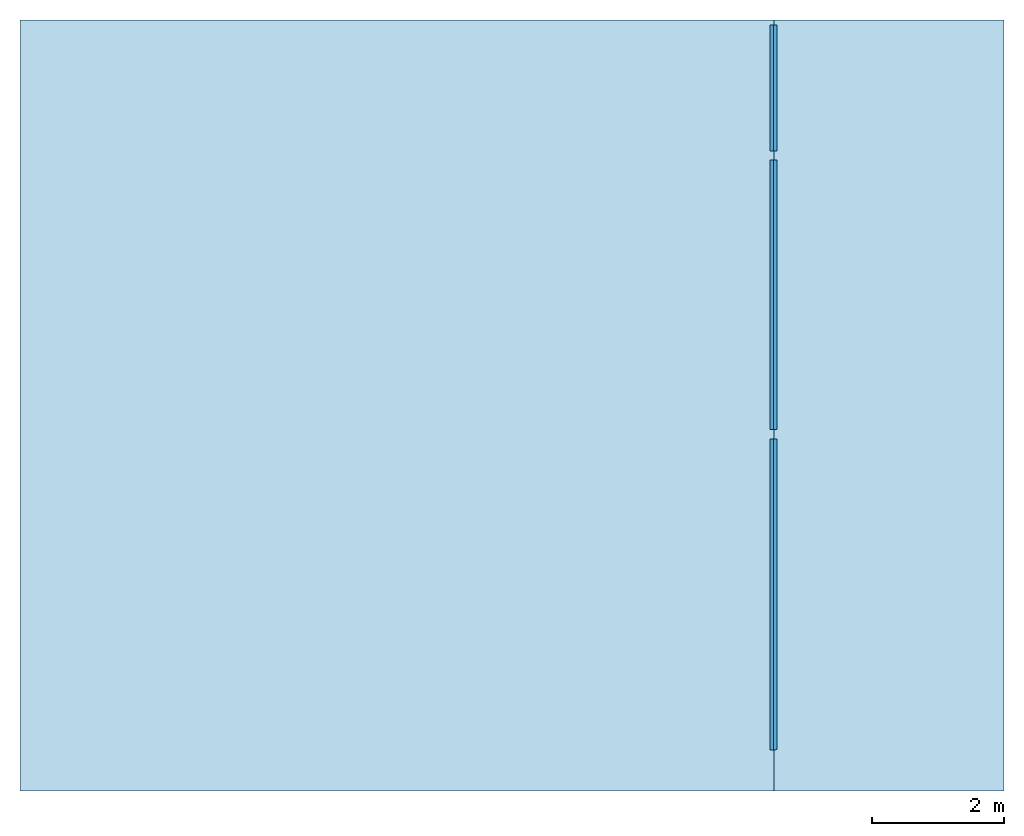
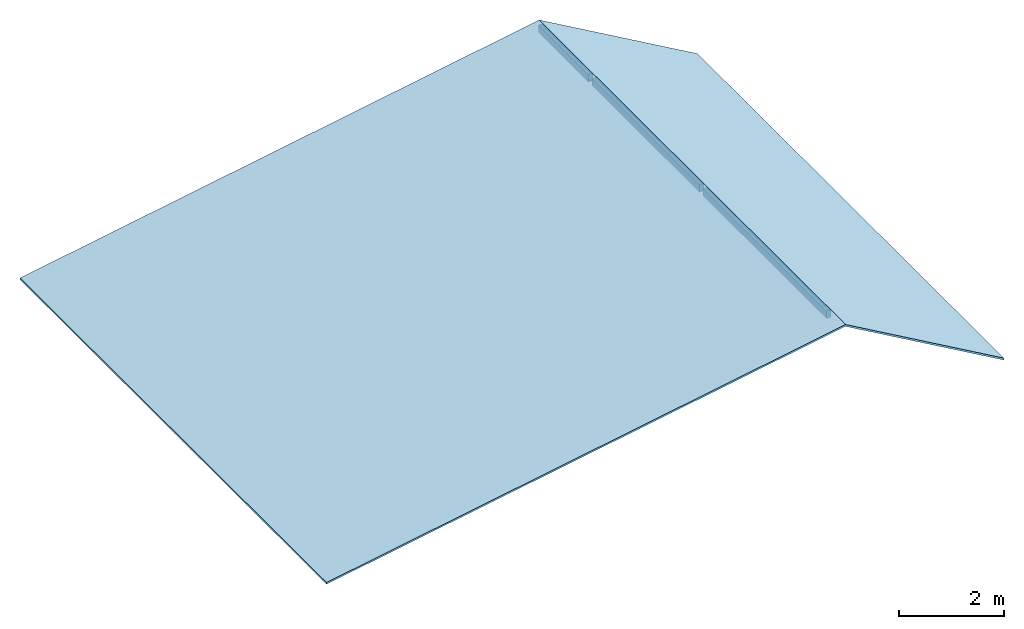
# One storey: 3 beams, 1 roof.
"""IFC4 building model written with IfcOpenShell, lengths in centimetres."""

import ifcopenshell
import ifcopenshell.guid

model = None  # the IFC model being written
_history = None  # IfcOwnerHistory: only IFC2X3 demands one
_inside = {}  # id of a spatial element -> (the spatial element, [elements in it])
_under = {}  # id of a project, library or spatial element -> (it, [spatial elements below it])
_declared = {}  # id of a project -> (the project, [libraries it declares])
_typed = {}  # id of a type object -> (the type object, [elements of that type])
_made_of = {}  # id of a material, layer set ... -> (it, [elements and type objects made of it])


def new_model(schema):
    """Start an empty IFC model of exactly this schema.

    Asked for "IFC4X3", IfcOpenShell would pick the latest addendum, in which some entities
    have other attributes; the version numbers below select the first issue.
    IFC2X3 requires an IfcOwnerHistory on every rooted entity: one is made here for all.
    """
    global model, _history
    if schema == "IFC4X3":
        model = ifcopenshell.file(schema_version=(4, 3, 0, 0))
    else:
        model = ifcopenshell.file(schema=schema)
    _inside.clear()
    _under.clear()
    _declared.clear()
    _typed.clear()
    _made_of.clear()
    _history = None
    if model.schema == "IFC2X3":
        org = make("IfcOrganization", Name="unknown")
        user = make(
            "IfcPersonAndOrganization",
            ThePerson=make("IfcPerson", FamilyName="unknown"),
            TheOrganization=org,
        )
        app = make(
            "IfcApplication",
            ApplicationDeveloper=org,
            Version="unknown",
            ApplicationFullName="unknown",
            ApplicationIdentifier="unknown",
        )
        _history = make(
            "IfcOwnerHistory",
            OwningUser=user,
            OwningApplication=app,
            ChangeAction="ADDED",
            CreationDate=0,
        )
    return model


def make(cls, **values):
    """One entity of the class cls with the attributes given. An attribute that is None is left unset."""
    return model.create_entity(
        cls, **{name: value for name, value in values.items() if value is not None}
    )


def entity(cls, *values):
    """Any entity or typed value of the class cls, its attributes in the order of the schema. None: left unset."""
    e = model.create_entity(cls)
    for i, value in enumerate(values):
        if value is not None:
            e[i] = value
    return e


def rooted(cls, **values):
    """An entity with a GlobalId (a new one), such as an element, a storey or a relation."""
    return make(cls, GlobalId=ifcopenshell.guid.new(), OwnerHistory=_history, **values)


def si_unit(unit_type, name, prefix=None):
    """IfcSIUnit, for example si_unit("LENGTHUNIT", "METRE", prefix="MILLI")."""
    return make("IfcSIUnit", UnitType=unit_type, Prefix=prefix, Name=name)


def converted_unit(unit_type, name, factor, base, dimensions=None, offset=None):
    """IfcConversionBasedUnit, such as the inch: factor (a typed value) times the base unit."""
    return make(
        "IfcConversionBasedUnit"
        if offset is None
        else "IfcConversionBasedUnitWithOffset",
        ConversionOffset=offset,
        Dimensions=None
        if dimensions is None
        else entity("IfcDimensionalExponents", *dimensions),
        UnitType=unit_type,
        Name=name,
        ConversionFactor=make(
            "IfcMeasureWithUnit", ValueComponent=factor, UnitComponent=base
        ),
    )


def derived_unit(unit_type, elements):
    """IfcDerivedUnit: a product of units, each with its exponent."""
    return make(
        "IfcDerivedUnit",
        Elements=[
            make("IfcDerivedUnitElement", Unit=unit, Exponent=power)
            for unit, power in elements
        ],
        UnitType=unit_type,
    )


def assignment(units):
    """IfcUnitAssignment: the units of a project."""
    return None if units is None else make("IfcUnitAssignment", Units=units)


def point(xyz):
    """IfcCartesianPoint."""
    return None if xyz is None else make("IfcCartesianPoint", Coordinates=xyz)


def direction(xyz):
    """IfcDirection."""
    return None if xyz is None else make("IfcDirection", DirectionRatios=xyz)


def frame(location, z_axis=None, x_axis=None):
    """IfcAxis2Placement3D, a coordinate frame: its origin and axes. An axis left out is left unset."""
    return make(
        "IfcAxis2Placement3D",
        Location=point(location),
        Axis=direction(z_axis),
        RefDirection=direction(x_axis),
    )


def origin():
    """The frame at (0, 0, 0) with its axes left unset."""
    return frame((0.0, 0.0, 0.0))


def place(relative_to, where):
    """IfcLocalPlacement: puts the frame where relative to a parent placement (None: the world)."""
    return make(
        "IfcLocalPlacement", PlacementRelTo=relative_to, RelativePlacement=where
    )


def context(
    kind, dimensions, precision=None, world=None, true_north=None, identifier=None
):
    """IfcGeometricRepresentationContext, for example the 3D "Model" context."""
    return make(
        "IfcGeometricRepresentationContext",
        ContextIdentifier=identifier,
        ContextType=kind,
        CoordinateSpaceDimension=dimensions,
        Precision=precision,
        WorldCoordinateSystem=world,
        TrueNorth=true_north,
    )


def subcontext(parent, identifier, kind, view, scale=None):
    """IfcGeometricRepresentationSubContext, for example "Body" below "Model"."""
    return make(
        "IfcGeometricRepresentationSubContext",
        ContextIdentifier=identifier,
        ContextType=kind,
        ParentContext=parent,
        TargetScale=scale,
        TargetView=view,
    )


def project(units=None, contexts=None):
    """IfcProject with its units and contexts."""
    return rooted(
        "IfcProject",
        Name="project",
        RepresentationContexts=contexts,
        UnitsInContext=assignment(units),
    )


def spatial(cls, under=None, at=None, **own):
    """A site, building, storey or space (cls), placed at a placement, below another one or the project."""
    s = rooted(cls, ObjectPlacement=at, **own)
    if under is not None:
        _under.setdefault(under.id(), (under, []))[1].append(s)
    return s


def point_list(points):
    """IfcCartesianPointList2D or 3D."""
    cls = (
        "IfcCartesianPointList2D" if len(points[0]) == 2 else "IfcCartesianPointList3D"
    )
    return make(cls, CoordList=points)


def indexed_curve(points, segments=None, self_intersect=None):
    """IfcIndexedPolyCurve: lines and arcs through numbered points (the first is 1)."""
    return make(
        "IfcIndexedPolyCurve",
        Points=point_list(points),
        Segments=segments,
        SelfIntersect=self_intersect,
    )


def outline(outer, holes=None, kind="AREA"):
    """IfcArbitraryClosedProfileDef: a profile drawn as a closed curve; with holes, ...WithVoids."""
    if holes is None:
        return make("IfcArbitraryClosedProfileDef", ProfileType=kind, OuterCurve=outer)
    return make(
        "IfcArbitraryProfileDefWithVoids",
        ProfileType=kind,
        OuterCurve=outer,
        InnerCurves=holes,
    )


def extrude(swept, where, along, depth):
    """IfcExtrudedAreaSolid: the profile swept, set in the frame where, extruded along a direction by depth."""
    return make(
        "IfcExtrudedAreaSolid",
        SweptArea=swept,
        Position=where,
        ExtrudedDirection=direction(along),
        Depth=depth,
    )


def polygons(points, faces, closed=None, point_numbers=None):
    """IfcPolygonalFaceSet: a face is its outer loop, then its inner loops; points numbered from 1."""
    made = []
    for loops in faces:
        if len(loops) == 1:
            made.append(make("IfcIndexedPolygonalFace", CoordIndex=loops[0]))
        else:
            made.append(
                make(
                    "IfcIndexedPolygonalFaceWithVoids",
                    CoordIndex=loops[0],
                    InnerCoordIndices=loops[1:],
                )
            )
    return make(
        "IfcPolygonalFaceSet",
        Coordinates=point_list(points),
        Closed=closed,
        Faces=made,
        PnIndex=point_numbers,
    )


def shape(context_of_items, identifier, shape_type, items):
    """IfcShapeRepresentation: the items that make up one representation, for example the "Body"."""
    return make(
        "IfcShapeRepresentation",
        ContextOfItems=context_of_items,
        RepresentationIdentifier=identifier,
        RepresentationType=shape_type,
        Items=items,
    )


def source(mapping_origin, context_of_items, identifier, shape_type, items):
    """IfcRepresentationMap: a shape defined once, which mapped items show again and again."""
    return make(
        "IfcRepresentationMap",
        MappingOrigin=mapping_origin,
        MappedRepresentation=shape(context_of_items, identifier, shape_type, items),
    )


def transform(
    local_origin,
    x_axis=None,
    y_axis=None,
    z_axis=None,
    scale=None,
    scale2=None,
    scale3=None,
    uniform=True,
):
    """IfcCartesianTransformationOperator3D, or its non-uniform kind. x_axis, y_axis, z_axis: its Axis1, 2, 3."""
    if uniform:
        return make(
            "IfcCartesianTransformationOperator3D",
            Axis1=direction(x_axis),
            Axis2=direction(y_axis),
            LocalOrigin=point(local_origin),
            Scale=scale,
            Axis3=direction(z_axis),
        )
    return make(
        "IfcCartesianTransformationOperator3DnonUniform",
        Axis1=direction(x_axis),
        Axis2=direction(y_axis),
        LocalOrigin=point(local_origin),
        Scale=scale,
        Axis3=direction(z_axis),
        Scale2=scale2,
        Scale3=scale3,
    )


def mapped(mapping_source, mapping_target):
    """IfcMappedItem: shows the shape of a source again, moved by a transform."""
    return make(
        "IfcMappedItem", MappingSource=mapping_source, MappingTarget=mapping_target
    )


def material(Name=None, Category=None):
    """IfcMaterial."""
    return make("IfcMaterial", Name=Name, Category=Category)


def made_of(thing, what):
    """Note that an element or type object is made of a material, layer set ...; save() writes the relation."""
    if what is not None:
        _made_of.setdefault(what.id(), (what, []))[1].append(thing)
    return thing


def type_object(cls, material=None, **own):
    """A type object (cls), such as IfcWallType, which elements share."""
    return made_of(rooted(cls, **own), material)


def type_shapes(of_type, sources):
    """Give a type object the sources (RepresentationMaps) that its elements show as mapped items."""
    of_type.RepresentationMaps = sources


def element(
    cls,
    number,
    at=None,
    inside=None,
    cuts=None,
    type_object=None,
    material=None,
    context=None,
    identifier="Body",
    shape_type=None,
    held_by="IfcProductDefinitionShape",
    body=None,
    shapes=None,
    **own,
):
    """One element of the class cls, such as IfcWall. Its Tag is "e" and its number.

    at: its placement. inside: the storey or other place that contains it. cuts: it is an
    opening in that element (IfcRelVoidsElement). A single representation is given by context,
    identifier, shape_type and body (its items); several are given by shapes. held_by: the class
    of the entity that holds the representations. save() writes the other relations.
    """
    e = rooted(cls, Tag="e%d" % number, ObjectPlacement=at, **own)
    if body is not None:
        shapes = [shape(context, identifier, shape_type, body)]
    if shapes is not None:
        e.Representation = make(held_by, Representations=shapes)
    if inside is not None:
        _inside.setdefault(inside.id(), (inside, []))[1].append(e)
    if cuts is not None:
        rooted(
            "IfcRelVoidsElement", RelatingBuildingElement=cuts, RelatedOpeningElement=e
        )
    if type_object is not None:
        _typed.setdefault(type_object.id(), (type_object, []))[1].append(e)
    return made_of(e, material)


def aggregate(whole, parts):
    """IfcRelAggregates: a whole, such as a stair, and the parts it consists of."""
    return rooted("IfcRelAggregates", RelatingObject=whole, RelatedObjects=parts)


def save(model, path):
    """Write the relations noted so far, then the file.

    IfcRelAggregates (storeys below a building ...), IfcRelContainedInSpatialStructure (elements
    in a storey), IfcRelDefinesByType, IfcRelAssociatesMaterial and IfcRelDeclares: one each for
    every whole, place, type object, material and project.
    """
    for whole, parts in _under.values():
        aggregate(whole, parts)
    for where, things in _inside.values():
        rooted(
            "IfcRelContainedInSpatialStructure",
            RelatedElements=things,
            RelatingStructure=where,
        )
    for kind, things in _typed.values():
        rooted("IfcRelDefinesByType", RelatedObjects=things, RelatingType=kind)
    for what, things in _made_of.values():
        rooted("IfcRelAssociatesMaterial", RelatedObjects=things, RelatingMaterial=what)
    for by, libraries in _declared.values():
        rooted("IfcRelDeclares", RelatingContext=by, RelatedDefinitions=libraries)
    model.write(path)


model = new_model("IFC4")

# Units and contexts
model_context = context("Model", 3, precision=0.001, world=origin(), true_north=direction((6.123233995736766e-17, 1.0)))
body_context = subcontext(model_context, "Body", "Model", "MODEL_VIEW")
ifc_project = project(units=[si_unit("LENGTHUNIT", "METRE", prefix="CENTI"), si_unit("AREAUNIT", "SQUARE_METRE"), converted_unit("PLANEANGLEUNIT", "DEGREE", entity("IfcPlaneAngleMeasure", 0.017453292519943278), si_unit("PLANEANGLEUNIT", "RADIAN"), dimensions=[0, 0, 0, 0, 0, 0, 0]), si_unit("VOLUMEUNIT", "CUBIC_METRE"), derived_unit("THERMALTRANSMITTANCEUNIT", [(si_unit("MASSUNIT", "GRAM", prefix="KILO"), 1), (si_unit("THERMODYNAMICTEMPERATUREUNIT", "KELVIN"), -1), (si_unit("TIMEUNIT", "SECOND"), -3)])], contexts=[model_context])

# Site, building, storey
site_placement = place(None, frame((-0.003347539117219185, 0.0, 0.0)))
site = spatial("IfcSite", under=ifc_project, at=site_placement, Name="Default", CompositionType="ELEMENT")
building_placement = place(site_placement, origin())
building = spatial("IfcBuilding", under=site, at=building_placement, CompositionType="ELEMENT")
storey_placement = place(building_placement, frame((0.0, 0.0, 556.0)))
storey = spatial("IfcBuildingStorey", under=building, at=storey_placement, Name="+5.25", CompositionType="ELEMENT", Elevation=556.0000000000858)

# Beams
ifc_material_1 = material(Name="BLC - GL24h", Category="Bois")
beam_type_1 = type_object("IfcBeamType", Name="Poutre - Lamellé-collé:10x18", PredefinedType="BEAM", material=ifc_material_1)
shared_shape_1 = source(origin(), body_context, "Body", "SweptSolid", [
    extrude(outline(indexed_curve([(-0.011114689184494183, -6.623454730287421), (0.02335203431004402, -6.623454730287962), (4.996940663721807, -5.751660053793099), (4.996940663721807, 11.376545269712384), (-5.003059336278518, 11.376545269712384), (-5.003059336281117, -3.754521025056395), (-0.011114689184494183, -6.623454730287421)], self_intersect=False)), frame((-5658.3080308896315, -1897.9758848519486, 545.286545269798), z_axis=(0.0, -1.0, 0.0), x_axis=(-1.0, 0.0, 0.0)), (0.0, 0.0, 1.0), 407.90000006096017),
])
type_shapes(beam_type_1, [shared_shape_1])
beam_1_placement = place(storey_placement, frame((0.0, 0.0, -556.0)))
element("IfcBeam", 1, at=beam_1_placement, inside=storey, type_object=beam_type_1, material=ifc_material_1, Name="Poutre - Lamellé-collé:10x18", ObjectType="Poutre - Lamellé-collé:10x18", PredefinedType="BEAM", context=body_context, shape_type="MappedRepresentation", body=[
    mapped(shared_shape_1, transform((0.0, 0.0, 0.0), scale=1.0)),
])
beam_type_2 = type_object("IfcBeamType", Name="Poutre - Lamellé-collé:10x18", PredefinedType="BEAM", material=ifc_material_1)
shared_shape_2 = source(origin(), body_context, "Body", "SweptSolid", [
    extrude(outline(indexed_curve([(-0.011114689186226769, -6.623454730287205), (0.023352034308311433, -6.623454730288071), (4.996940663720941, -5.751660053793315), (4.996940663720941, 11.376545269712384), (-5.003059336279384, 11.376545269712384), (-5.003059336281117, -3.7545210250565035), (-0.011114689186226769, -6.623454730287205)], self_intersect=False)), frame((-5658.3080308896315, -1693.450884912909, 545.286545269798), z_axis=(0.0, -1.0, 0.0), x_axis=(-1.0, 0.0, 0.0)), (0.0, 0.0, 1.0), 190.40000000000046),
])
type_shapes(beam_type_2, [shared_shape_2])
beam_2_placement = place(storey_placement, frame((0.0, 0.0, -556.0)))
element("IfcBeam", 2, at=beam_2_placement, inside=storey, type_object=beam_type_2, material=ifc_material_1, Name="Poutre - Lamellé-collé:10x18", ObjectType="Poutre - Lamellé-collé:10x18", PredefinedType="BEAM", context=body_context, shape_type="MappedRepresentation", body=[
    mapped(shared_shape_2, transform((0.0, 0.0, 0.0), scale=1.0)),
])
beam_type_3 = type_object("IfcBeamType", Name="Poutre - Lamellé-collé:10x18", PredefinedType="BEAM", material=ifc_material_1)
shared_shape_3 = source(origin(), body_context, "Body", "Tessellation", [
    polygons([(5.008055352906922, 0.33959978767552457, 18.00000000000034), (4.973588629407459, 0.33726257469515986, 17.999999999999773), (9.094947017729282e-13, 4.547473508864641e-13, 17.128205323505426), (9.094947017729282e-13, 4.547473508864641e-13, 0.0), (10.000000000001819, 0.6781070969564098, 0.0), (10.00000000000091, 0.6781070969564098, 15.131066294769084), (5.0080553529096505, 470.77997268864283, 17.999999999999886), (4.973588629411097, 470.77997268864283, 18.0), (9.094947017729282e-13, 470.77997268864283, 17.128205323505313), (9.094947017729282e-13, 470.77997268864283, 0.0), (10.000000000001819, 470.77997268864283, 0.0), (10.000000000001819, 470.77997268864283, 15.131066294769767)], [[[1, 2, 3, 4, 5, 6]], [[7, 8, 2, 1]], [[3, 2, 8, 9]], [[9, 10, 4, 3]], [[4, 10, 11, 5]], [[5, 11, 12, 6]], [[12, 11, 10, 9, 8, 7]], [[1, 6, 12, 7]]], closed=True),
])
type_shapes(beam_type_3, [shared_shape_3])
beam_3_placement = place(storey_placement, frame((-5663.304971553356, -2790.696776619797, -22.090000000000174)))
element("IfcBeam", 3, at=beam_3_placement, inside=storey, type_object=beam_type_3, material=ifc_material_1, Name="Poutre - Lamellé-collé:10x18", ObjectType="Poutre - Lamellé-collé:10x18", PredefinedType="BEAM", context=body_context, shape_type="MappedRepresentation", body=[
    mapped(shared_shape_3, transform((0.0, 0.0, 0.0), scale=1.0)),
])

# Roof
ifc_material_2 = material(Name="Panneau métallique", Category="Métal")
roof_type = type_object("IfcRoofType", Name="Toit de base:Bac Acier 3.333.39 T", PredefinedType="NOTDEFINED")
roof_placement = place(storey_placement, frame((-6798.586652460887, -2852.875884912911, -204.4981975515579)))
element("IfcRoof", 4, at=roof_placement, inside=storey, type_object=roof_type, material=ifc_material_2, Name="Toit de base:Bac Acier 3.333.39 T", ObjectType="Toit de base:Bac Acier 3.333.39 T", PredefinedType="NOTDEFINED", context=body_context, shape_type="Tessellation", body=[
    polygons([(1489.000000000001, 0.0, 4.498197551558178), (1141.000000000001, 1.3642420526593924e-12, 204.4981975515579), (0.0, 5.002220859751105e-12, 4.498197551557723), (0.0, 5.002220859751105e-12, 0.5387375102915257), (1140.2816809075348, 1.3642420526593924e-12, 200.41282706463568), (1489.000000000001, 0.0, 0.0), (1489.0000000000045, 1166.999999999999, 4.498197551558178), (1489.0000000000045, 1166.999999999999, 0.0), (1140.2816809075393, 1167.0, 200.41282706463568), (3.637978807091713e-12, 1167.0000000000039, 0.5387375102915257), (3.637978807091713e-12, 1167.0000000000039, 4.498197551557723), (1141.0000000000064, 1167.0, 204.4981975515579)], [[[1, 2, 3, 4, 5, 6]], [[7, 8, 9, 10, 11, 12]], [[2, 1, 7, 12]], [[3, 2, 12, 11]], [[4, 3, 11, 10]], [[5, 4, 10, 9]], [[6, 5, 9, 8]], [[1, 6, 8, 7]]], closed=True),
])

save(model, "model.ifc")
